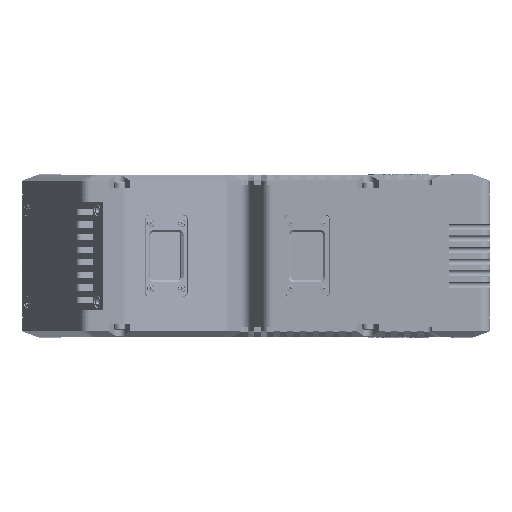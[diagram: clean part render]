
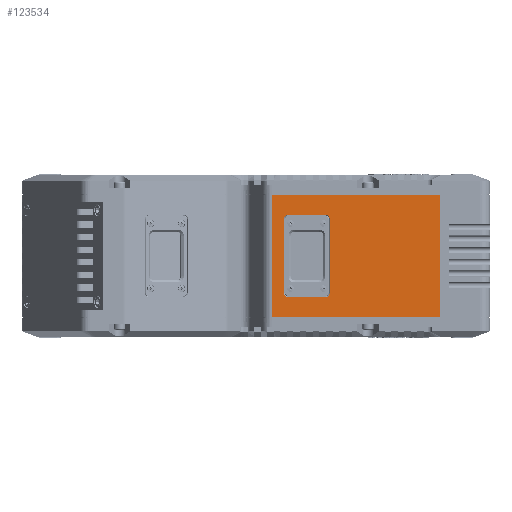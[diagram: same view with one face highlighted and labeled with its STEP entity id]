
A CAD part, front view. The second image highlights one B-rep face of the part: STEP entity #123534.
In plain terms, the highlighted planar face has unit normal (0, -1, 0).
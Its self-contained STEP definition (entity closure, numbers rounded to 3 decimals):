
#965=CARTESIAN_POINT('',(9.,194.,18.));
#966=DIRECTION('',(0.,1.,0.));
#967=DIRECTION('',(0.,0.,1.));
#968=AXIS2_PLACEMENT_3D('',#965,#966,#967);
#973=DIRECTION('',(1.,0.,0.));
#974=VECTOR('',#973,18.);
#975=CARTESIAN_POINT('',(-9.,194.,20.3));
#976=LINE('',#975,#974);
#980=CARTESIAN_POINT('',(-9.,194.,18.));
#981=DIRECTION('',(0.,1.,0.));
#982=DIRECTION('',(-1.,0.,0.));
#983=AXIS2_PLACEMENT_3D('',#980,#981,#982);
#988=DIRECTION('',(0.,0.,1.));
#989=VECTOR('',#988,36.);
#990=CARTESIAN_POINT('',(-11.3,194.,-18.));
#991=LINE('',#990,#989);
#995=CARTESIAN_POINT('',(-9.,194.,-18.));
#996=DIRECTION('',(0.,1.,0.));
#997=DIRECTION('',(0.,0.,-1.));
#998=AXIS2_PLACEMENT_3D('',#995,#996,#997);
#1003=DIRECTION('',(-1.,0.,0.));
#1004=VECTOR('',#1003,18.);
#1005=CARTESIAN_POINT('',(9.,194.,-20.3));
#1006=LINE('',#1005,#1004);
#1010=CARTESIAN_POINT('',(9.,194.,-18.));
#1011=DIRECTION('',(0.,1.,0.));
#1012=DIRECTION('',(1.,0.,0.));
#1013=AXIS2_PLACEMENT_3D('',#1010,#1011,#1012);
#1018=DIRECTION('',(0.,0.,-1.));
#1019=VECTOR('',#1018,36.);
#1020=CARTESIAN_POINT('',(11.3,194.,18.));
#1021=LINE('',#1020,#1019);
#1025=DIRECTION('',(-1.,0.,0.));
#1026=VECTOR('',#1025,82.613);
#1027=CARTESIAN_POINT('',(65.5,194.,30.));
#1028=LINE('',#1027,#1026);
#1032=DIRECTION('',(0.,0.,1.));
#1033=VECTOR('',#1032,60.);
#1034=CARTESIAN_POINT('',(65.5,194.,-30.));
#1035=LINE('',#1034,#1033);
#1039=DIRECTION('',(1.,0.,0.));
#1040=VECTOR('',#1039,82.613);
#1041=CARTESIAN_POINT('',(-17.113,194.,-30.));
#1042=LINE('',#1041,#1040);
#1046=DIRECTION('',(0.,0.,-1.));
#1047=VECTOR('',#1046,60.);
#1048=CARTESIAN_POINT('',(-17.113,194.,30.));
#1049=LINE('',#1048,#1047);
#118127=CARTESIAN_POINT('',(9.,194.,20.3));
#118128=CARTESIAN_POINT('',(11.3,194.,18.));
#118129=VERTEX_POINT('',#118127);
#118130=VERTEX_POINT('',#118128);
#118135=CARTESIAN_POINT('',(11.3,194.,-18.));
#118136=VERTEX_POINT('',#118135);
#118139=CARTESIAN_POINT('',(9.,194.,-20.3));
#118140=VERTEX_POINT('',#118139);
#118143=CARTESIAN_POINT('',(-9.,194.,-20.3));
#118144=VERTEX_POINT('',#118143);
#118147=CARTESIAN_POINT('',(-11.3,194.,-18.));
#118148=VERTEX_POINT('',#118147);
#118151=CARTESIAN_POINT('',(-11.3,194.,18.));
#118152=VERTEX_POINT('',#118151);
#118155=CARTESIAN_POINT('',(-9.,194.,20.3));
#118156=VERTEX_POINT('',#118155);
#118159=CARTESIAN_POINT('',(65.5,194.,30.));
#118160=CARTESIAN_POINT('',(-17.113,194.,30.));
#118161=VERTEX_POINT('',#118159);
#118162=VERTEX_POINT('',#118160);
#118167=CARTESIAN_POINT('',(65.5,194.,-30.));
#118168=VERTEX_POINT('',#118167);
#118169=CARTESIAN_POINT('',(-17.113,194.,-30.));
#118170=VERTEX_POINT('',#118169);
#123502=CARTESIAN_POINT('',(-20.,194.,-30.));
#123503=DIRECTION('',(0.,-1.,0.));
#123504=DIRECTION('',(1.,0.,0.));
#123505=AXIS2_PLACEMENT_3D('',#123502,#123503,#123504);
#123506=PLANE('',#123505);
#123508=ORIENTED_EDGE('',*,*,#123507,.F.);
#123510=ORIENTED_EDGE('',*,*,#123509,.F.);
#123512=ORIENTED_EDGE('',*,*,#123511,.F.);
#123514=ORIENTED_EDGE('',*,*,#123513,.F.);
#123515=EDGE_LOOP('',(#123508,#123510,#123512,#123514));
#123516=FACE_OUTER_BOUND('',#123515,.F.);
#123518=ORIENTED_EDGE('',*,*,#123517,.F.);
#123520=ORIENTED_EDGE('',*,*,#123519,.F.);
#123521=ORIENTED_EDGE('',*,*,#123485,.F.);
#123523=ORIENTED_EDGE('',*,*,#123522,.F.);
#123525=ORIENTED_EDGE('',*,*,#123524,.F.);
#123527=ORIENTED_EDGE('',*,*,#123526,.F.);
#123529=ORIENTED_EDGE('',*,*,#123528,.F.);
#123531=ORIENTED_EDGE('',*,*,#123530,.F.);
#123532=EDGE_LOOP('',(#123518,#123520,#123521,#123523,#123525,#123527,#123529,
#123531));
#123533=FACE_BOUND('',#123532,.F.);
#123534=ADVANCED_FACE('',(#123516,#123533),#123506,.T.);
#969=CIRCLE('',#968,2.3);
#984=CIRCLE('',#983,2.3);
#999=CIRCLE('',#998,2.3);
#1014=CIRCLE('',#1013,2.3);
#123485=EDGE_CURVE('',#118152,#118156,#984,.T.);
#123507=EDGE_CURVE('',#118161,#118162,#1028,.T.);
#123509=EDGE_CURVE('',#118168,#118161,#1035,.T.);
#123511=EDGE_CURVE('',#118170,#118168,#1042,.T.);
#123513=EDGE_CURVE('',#118162,#118170,#1049,.T.);
#123517=EDGE_CURVE('',#118129,#118130,#969,.T.);
#123519=EDGE_CURVE('',#118156,#118129,#976,.T.);
#123522=EDGE_CURVE('',#118148,#118152,#991,.T.);
#123524=EDGE_CURVE('',#118144,#118148,#999,.T.);
#123526=EDGE_CURVE('',#118140,#118144,#1006,.T.);
#123528=EDGE_CURVE('',#118136,#118140,#1014,.T.);
#123530=EDGE_CURVE('',#118130,#118136,#1021,.T.);
